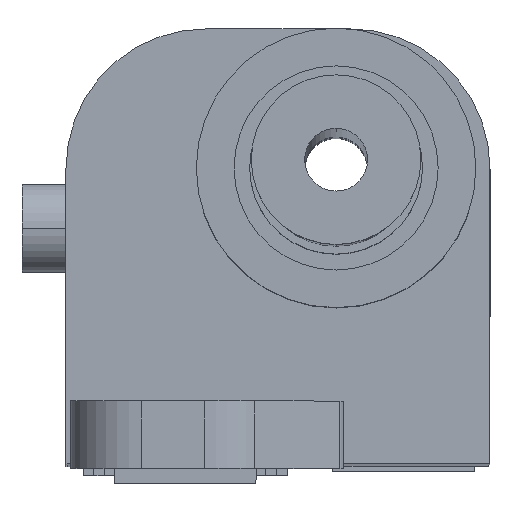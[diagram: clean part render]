
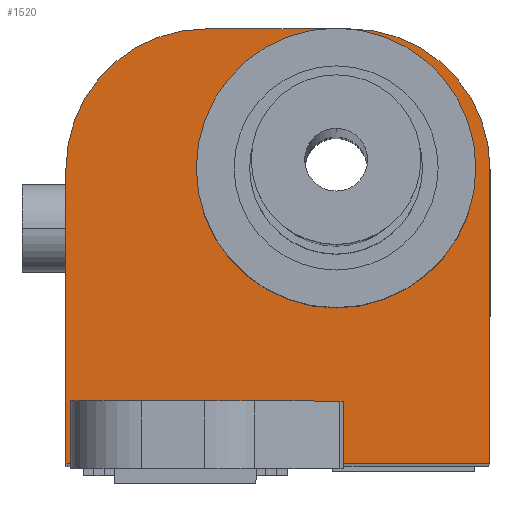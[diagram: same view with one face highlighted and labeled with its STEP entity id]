
A CAD part, top view. The second image highlights one B-rep face of the part: STEP entity #1520.
In plain terms, the highlighted planar face has unit normal (0, 0, 1).
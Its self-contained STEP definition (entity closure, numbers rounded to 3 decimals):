
#75 = ORIENTED_EDGE ( 'NONE', *, *, #1606, .T. ) ;
#84 = ORIENTED_EDGE ( 'NONE', *, *, #429, .T. ) ;
#193 = VERTEX_POINT ( 'NONE', #1336 ) ;
#196 = EDGE_CURVE ( 'NONE', #193, #441, #1328, .T. ) ;
#426 = VERTEX_POINT ( 'NONE', #2021 ) ;
#429 = EDGE_CURVE ( 'NONE', #4989, #426, #2016, .T. ) ;
#441 = VERTEX_POINT ( 'NONE', #2061 ) ;
#459 = VERTEX_POINT ( 'NONE', #2098 ) ;
#471 = VERTEX_POINT ( 'NONE', #2090 ) ;
#474 = EDGE_CURVE ( 'NONE', #490, #471, #2088, .T. ) ;
#490 = VERTEX_POINT ( 'NONE', #2112 ) ;
#758 = EDGE_CURVE ( 'NONE', #459, #759, #2645, .T. ) ;
#759 = VERTEX_POINT ( 'NONE', #2641 ) ;
#973 = VERTEX_POINT ( 'NONE', #2953 ) ;
#975 = EDGE_CURVE ( 'NONE', #983, #973, #2952, .T. ) ;
#983 = VERTEX_POINT ( 'NONE', #3010 ) ;
#1328 = LINE ( 'NONE', #1396, #1395 ) ;
#1336 = CARTESIAN_POINT ( 'NONE',  ( 0.9, 27.7, 0. ) ) ;
#1394 = DIRECTION ( 'NONE',  ( -1., 0., 0. ) ) ;
#1395 = VECTOR ( 'NONE', #1394, 1000. ) ;
#1396 = CARTESIAN_POINT ( 'NONE',  ( -17.2, 27.7, 0. ) ) ;
#1475 = ORIENTED_EDGE ( 'NONE', *, *, #758, .F. ) ;
#1476 = EDGE_CURVE ( 'NONE', #759, #459, #3279, .T. ) ;
#1513 = ORIENTED_EDGE ( 'NONE', *, *, #1476, .F. ) ;
#1520 = ADVANCED_FACE ( 'NONE', ( #3341, #3340 ), #3339, .F. ) ;
#1521 = EDGE_LOOP ( 'NONE', ( #1513, #1475 ) ) ;
#1529 = VERTEX_POINT ( 'NONE', #3326 ) ;
#1532 = EDGE_CURVE ( 'NONE', #973, #1529, #3325, .T. ) ;
#1595 = EDGE_CURVE ( 'NONE', #4972, #1529, #3470, .T. ) ;
#1605 = ORIENTED_EDGE ( 'NONE', *, *, #5014, .F. ) ;
#1606 = EDGE_CURVE ( 'NONE', #426, #490, #3452, .T. ) ;
#1629 = ORIENTED_EDGE ( 'NONE', *, *, #1595, .F. ) ;
#1652 = EDGE_LOOP ( 'NONE', ( #4892, #4893, #4900, #4895, #4897, #4905, #1629, #1605, #84, #75 ) ) ;
#2013 = DIRECTION ( 'NONE',  ( 0., -1., 0. ) ) ;
#2014 = VECTOR ( 'NONE', #2013, 1000. ) ;
#2015 = CARTESIAN_POINT ( 'NONE',  ( 0.5, 4., 0. ) ) ;
#2016 = LINE ( 'NONE', #2015, #2014 ) ;
#2021 = CARTESIAN_POINT ( 'NONE',  ( 0.5, 0., 0. ) ) ;
#2061 = CARTESIAN_POINT ( 'NONE',  ( -8.3, 27.7, 0. ) ) ;
#2085 = DIRECTION ( 'NONE',  ( 0., 1., 0. ) ) ;
#2086 = VECTOR ( 'NONE', #2085, 1000. ) ;
#2087 = CARTESIAN_POINT ( 'NONE',  ( 9.8, 0., 0. ) ) ;
#2088 = LINE ( 'NONE', #2087, #2086 ) ;
#2090 = CARTESIAN_POINT ( 'NONE',  ( 9.8, 18.8, 0. ) ) ;
#2098 = CARTESIAN_POINT ( 'NONE',  ( -7., 18.8, 0. ) ) ;
#2112 = CARTESIAN_POINT ( 'NONE',  ( 9.8, 0., 0. ) ) ;
#2583 = CARTESIAN_POINT ( 'NONE',  ( 0., 18.8, 0. ) ) ;
#2641 = CARTESIAN_POINT ( 'NONE',  ( 7., 18.8, 0. ) ) ;
#2642 = DIRECTION ( 'NONE',  ( 1., 0., 0. ) ) ;
#2643 = DIRECTION ( 'NONE',  ( 0., 0., 1. ) ) ;
#2644 = AXIS2_PLACEMENT_3D ( 'NONE', #2583, #2643, #2642 ) ;
#2645 = CIRCLE ( 'NONE', #2644, 7. ) ;
#2950 = VECTOR ( 'NONE', #3018, 1000. ) ;
#2951 = CARTESIAN_POINT ( 'NONE',  ( -17.2, 0., 0. ) ) ;
#2952 = LINE ( 'NONE', #2951, #2950 ) ;
#2953 = CARTESIAN_POINT ( 'NONE',  ( -17.2, 0., 0. ) ) ;
#3010 = CARTESIAN_POINT ( 'NONE',  ( -17.2, 18.8, 0. ) ) ;
#3018 = DIRECTION ( 'NONE',  ( 0., -1., 0. ) ) ;
#3275 = DIRECTION ( 'NONE',  ( 1., 0., 0. ) ) ;
#3276 = DIRECTION ( 'NONE',  ( 0., 0., 1. ) ) ;
#3277 = CARTESIAN_POINT ( 'NONE',  ( 0., 18.8, 0. ) ) ;
#3278 = AXIS2_PLACEMENT_3D ( 'NONE', #3277, #3276, #3275 ) ;
#3279 = CIRCLE ( 'NONE', #3278, 7. ) ;
#3322 = DIRECTION ( 'NONE',  ( 1., 0., 0. ) ) ;
#3323 = VECTOR ( 'NONE', #3322, 1000. ) ;
#3324 = CARTESIAN_POINT ( 'NONE',  ( -17.2, 0., 0. ) ) ;
#3325 = LINE ( 'NONE', #3324, #3323 ) ;
#3326 = CARTESIAN_POINT ( 'NONE',  ( -16.9, 0., 0. ) ) ;
#3335 = DIRECTION ( 'NONE',  ( -1., 0., 0. ) ) ;
#3336 = DIRECTION ( 'NONE',  ( 0., 0., -1. ) ) ;
#3337 = CARTESIAN_POINT ( 'NONE',  ( -17.2, 0., 0. ) ) ;
#3338 = AXIS2_PLACEMENT_3D ( 'NONE', #3337, #3336, #3335 ) ;
#3339 = PLANE ( 'NONE',  #3338 ) ;
#3340 = FACE_OUTER_BOUND ( 'NONE', #1652, .T. ) ;
#3341 = FACE_BOUND ( 'NONE', #1521, .T. ) ;
#3450 = VECTOR ( 'NONE', #3514, 1000. ) ;
#3451 = CARTESIAN_POINT ( 'NONE',  ( -17.2, 0., 0. ) ) ;
#3452 = LINE ( 'NONE', #3451, #3450 ) ;
#3467 = DIRECTION ( 'NONE',  ( 0., -1., 0. ) ) ;
#3468 = VECTOR ( 'NONE', #3467, 1000. ) ;
#3469 = CARTESIAN_POINT ( 'NONE',  ( -16.9, 4., 0. ) ) ;
#3470 = LINE ( 'NONE', #3469, #3468 ) ;
#3514 = DIRECTION ( 'NONE',  ( 1., 0., 0. ) ) ;
#3790 = DIRECTION ( 'NONE',  ( -1., 0., 0. ) ) ;
#3791 = DIRECTION ( 'NONE',  ( 0., 0., 1. ) ) ;
#3792 = CARTESIAN_POINT ( 'NONE',  ( 0.9, 18.8, 0. ) ) ;
#3793 = AXIS2_PLACEMENT_3D ( 'NONE', #3792, #3791, #3790 ) ;
#3794 = CIRCLE ( 'NONE', #3793, 8.9 ) ;
#3795 = DIRECTION ( 'NONE',  ( -1., 0., 0. ) ) ;
#3796 = DIRECTION ( 'NONE',  ( 0., 0., 1. ) ) ;
#3797 = CARTESIAN_POINT ( 'NONE',  ( -8.3, 18.8, 0. ) ) ;
#3798 = AXIS2_PLACEMENT_3D ( 'NONE', #3797, #3796, #3795 ) ;
#3803 = CIRCLE ( 'NONE', #3798, 8.9 ) ;
#3930 = CARTESIAN_POINT ( 'NONE',  ( -16.9, 4., 0. ) ) ;
#3964 = CARTESIAN_POINT ( 'NONE',  ( 0.5, 4., 0. ) ) ;
#3983 = DIRECTION ( 'NONE',  ( -1., 0., 0. ) ) ;
#3984 = VECTOR ( 'NONE', #3983, 1000. ) ;
#3985 = CARTESIAN_POINT ( 'NONE',  ( -16.9, 4., 0. ) ) ;
#3986 = LINE ( 'NONE', #3985, #3984 ) ;
#4891 = EDGE_CURVE ( 'NONE', #441, #983, #3803, .T. ) ;
#4892 = ORIENTED_EDGE ( 'NONE', *, *, #474, .T. ) ;
#4893 = ORIENTED_EDGE ( 'NONE', *, *, #4896, .T. ) ;
#4895 = ORIENTED_EDGE ( 'NONE', *, *, #4891, .T. ) ;
#4896 = EDGE_CURVE ( 'NONE', #471, #193, #3794, .T. ) ;
#4897 = ORIENTED_EDGE ( 'NONE', *, *, #975, .T. ) ;
#4900 = ORIENTED_EDGE ( 'NONE', *, *, #196, .T. ) ;
#4905 = ORIENTED_EDGE ( 'NONE', *, *, #1532, .T. ) ;
#4972 = VERTEX_POINT ( 'NONE', #3930 ) ;
#4989 = VERTEX_POINT ( 'NONE', #3964 ) ;
#5014 = EDGE_CURVE ( 'NONE', #4989, #4972, #3986, .T. ) ;
